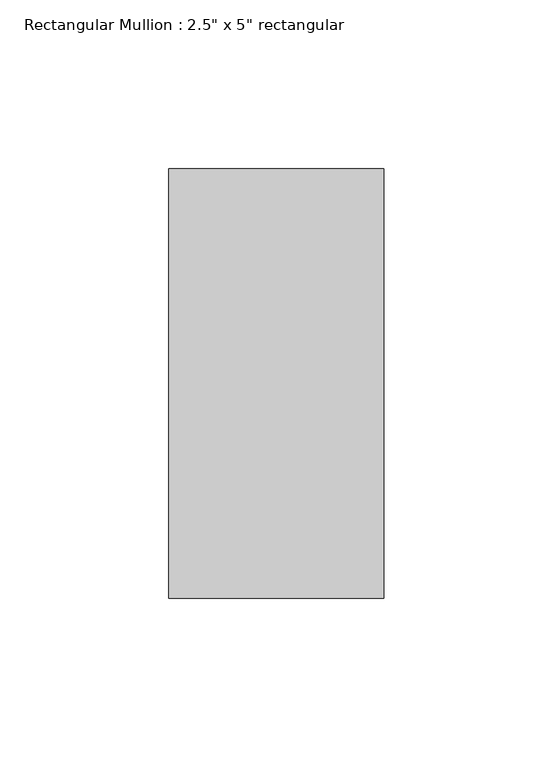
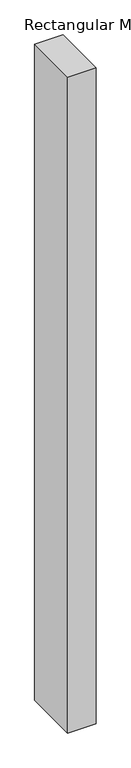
"""IFC4 building model written with IfcOpenShell, lengths in millimetres: member geometry."""

import ifcopenshell
import ifcopenshell.guid

model = None  # the IFC model being written
_history = None  # IfcOwnerHistory: only IFC2X3 demands one
_inside = {}  # id of a spatial element -> (the spatial element, [elements in it])
_under = {}  # id of a project, library or spatial element -> (it, [spatial elements below it])
_declared = {}  # id of a project -> (the project, [libraries it declares])
_typed = {}  # id of a type object -> (the type object, [elements of that type])
_made_of = {}  # id of a material, layer set ... -> (it, [elements and type objects made of it])


def new_model(schema):
    """Start an empty IFC model of exactly this schema.

    Asked for "IFC4X3", IfcOpenShell would pick the latest addendum, in which some entities
    have other attributes; the version numbers below select the first issue.
    IFC2X3 requires an IfcOwnerHistory on every rooted entity: one is made here for all.
    """
    global model, _history
    if schema == "IFC4X3":
        model = ifcopenshell.file(schema_version=(4, 3, 0, 0))
    else:
        model = ifcopenshell.file(schema=schema)
    _inside.clear()
    _under.clear()
    _declared.clear()
    _typed.clear()
    _made_of.clear()
    _history = None
    if model.schema == "IFC2X3":
        org = make("IfcOrganization", Name="unknown")
        user = make(
            "IfcPersonAndOrganization",
            ThePerson=make("IfcPerson", FamilyName="unknown"),
            TheOrganization=org,
        )
        app = make(
            "IfcApplication",
            ApplicationDeveloper=org,
            Version="unknown",
            ApplicationFullName="unknown",
            ApplicationIdentifier="unknown",
        )
        _history = make(
            "IfcOwnerHistory",
            OwningUser=user,
            OwningApplication=app,
            ChangeAction="ADDED",
            CreationDate=0,
        )
    return model


def make(cls, **values):
    """One entity of the class cls with the attributes given. An attribute that is None is left unset."""
    return model.create_entity(
        cls, **{name: value for name, value in values.items() if value is not None}
    )


def rooted(cls, **values):
    """An entity with a GlobalId (a new one), such as an element, a storey or a relation."""
    return make(cls, GlobalId=ifcopenshell.guid.new(), OwnerHistory=_history, **values)


def si_unit(unit_type, name, prefix=None):
    """IfcSIUnit, for example si_unit("LENGTHUNIT", "METRE", prefix="MILLI")."""
    return make("IfcSIUnit", UnitType=unit_type, Prefix=prefix, Name=name)


def assignment(units):
    """IfcUnitAssignment: the units of a project."""
    return None if units is None else make("IfcUnitAssignment", Units=units)


def point(xyz):
    """IfcCartesianPoint."""
    return None if xyz is None else make("IfcCartesianPoint", Coordinates=xyz)


def direction(xyz):
    """IfcDirection."""
    return None if xyz is None else make("IfcDirection", DirectionRatios=xyz)


def frame(location, z_axis=None, x_axis=None):
    """IfcAxis2Placement3D, a coordinate frame: its origin and axes. An axis left out is left unset."""
    return make(
        "IfcAxis2Placement3D",
        Location=point(location),
        Axis=direction(z_axis),
        RefDirection=direction(x_axis),
    )


def origin():
    """The frame at (0, 0, 0) with its axes left unset."""
    return frame((0.0, 0.0, 0.0))


def place(relative_to, where):
    """IfcLocalPlacement: puts the frame where relative to a parent placement (None: the world)."""
    return make(
        "IfcLocalPlacement", PlacementRelTo=relative_to, RelativePlacement=where
    )


def context(
    kind, dimensions, precision=None, world=None, true_north=None, identifier=None
):
    """IfcGeometricRepresentationContext, for example the 3D "Model" context."""
    return make(
        "IfcGeometricRepresentationContext",
        ContextIdentifier=identifier,
        ContextType=kind,
        CoordinateSpaceDimension=dimensions,
        Precision=precision,
        WorldCoordinateSystem=world,
        TrueNorth=true_north,
    )


def project(units=None, contexts=None):
    """IfcProject with its units and contexts."""
    return rooted(
        "IfcProject",
        Name="project",
        RepresentationContexts=contexts,
        UnitsInContext=assignment(units),
    )


def spatial(cls, under=None, at=None, **own):
    """A site, building, storey or space (cls), placed at a placement, below another one or the project."""
    s = rooted(cls, ObjectPlacement=at, **own)
    if under is not None:
        _under.setdefault(under.id(), (under, []))[1].append(s)
    return s


def polyline(points):
    """IfcPolyline through the points."""
    return make("IfcPolyline", Points=[point(p) for p in points])


def outline(outer, holes=None, kind="AREA"):
    """IfcArbitraryClosedProfileDef: a profile drawn as a closed curve; with holes, ...WithVoids."""
    if holes is None:
        return make("IfcArbitraryClosedProfileDef", ProfileType=kind, OuterCurve=outer)
    return make(
        "IfcArbitraryProfileDefWithVoids",
        ProfileType=kind,
        OuterCurve=outer,
        InnerCurves=holes,
    )


def extrude(swept, where, along, depth):
    """IfcExtrudedAreaSolid: the profile swept, set in the frame where, extruded along a direction by depth."""
    return make(
        "IfcExtrudedAreaSolid",
        SweptArea=swept,
        Position=where,
        ExtrudedDirection=direction(along),
        Depth=depth,
    )


def shape(context_of_items, identifier, shape_type, items):
    """IfcShapeRepresentation: the items that make up one representation, for example the "Body"."""
    return make(
        "IfcShapeRepresentation",
        ContextOfItems=context_of_items,
        RepresentationIdentifier=identifier,
        RepresentationType=shape_type,
        Items=items,
    )


def source(mapping_origin, context_of_items, identifier, shape_type, items):
    """IfcRepresentationMap: a shape defined once, which mapped items show again and again."""
    return make(
        "IfcRepresentationMap",
        MappingOrigin=mapping_origin,
        MappedRepresentation=shape(context_of_items, identifier, shape_type, items),
    )


def transform(
    local_origin,
    x_axis=None,
    y_axis=None,
    z_axis=None,
    scale=None,
    scale2=None,
    scale3=None,
    uniform=True,
):
    """IfcCartesianTransformationOperator3D, or its non-uniform kind. x_axis, y_axis, z_axis: its Axis1, 2, 3."""
    if uniform:
        return make(
            "IfcCartesianTransformationOperator3D",
            Axis1=direction(x_axis),
            Axis2=direction(y_axis),
            LocalOrigin=point(local_origin),
            Scale=scale,
            Axis3=direction(z_axis),
        )
    return make(
        "IfcCartesianTransformationOperator3DnonUniform",
        Axis1=direction(x_axis),
        Axis2=direction(y_axis),
        LocalOrigin=point(local_origin),
        Scale=scale,
        Axis3=direction(z_axis),
        Scale2=scale2,
        Scale3=scale3,
    )


def mapped(mapping_source, mapping_target):
    """IfcMappedItem: shows the shape of a source again, moved by a transform."""
    return make(
        "IfcMappedItem", MappingSource=mapping_source, MappingTarget=mapping_target
    )


def made_of(thing, what):
    """Note that an element or type object is made of a material, layer set ...; save() writes the relation."""
    if what is not None:
        _made_of.setdefault(what.id(), (what, []))[1].append(thing)
    return thing


def element(
    cls,
    number,
    at=None,
    inside=None,
    cuts=None,
    type_object=None,
    material=None,
    context=None,
    identifier="Body",
    shape_type=None,
    held_by="IfcProductDefinitionShape",
    body=None,
    shapes=None,
    **own,
):
    """One element of the class cls, such as IfcWall. Its Tag is "e" and its number.

    at: its placement. inside: the storey or other place that contains it. cuts: it is an
    opening in that element (IfcRelVoidsElement). A single representation is given by context,
    identifier, shape_type and body (its items); several are given by shapes. held_by: the class
    of the entity that holds the representations. save() writes the other relations.
    """
    e = rooted(cls, Tag="e%d" % number, ObjectPlacement=at, **own)
    if body is not None:
        shapes = [shape(context, identifier, shape_type, body)]
    if shapes is not None:
        e.Representation = make(held_by, Representations=shapes)
    if inside is not None:
        _inside.setdefault(inside.id(), (inside, []))[1].append(e)
    if cuts is not None:
        rooted(
            "IfcRelVoidsElement", RelatingBuildingElement=cuts, RelatedOpeningElement=e
        )
    if type_object is not None:
        _typed.setdefault(type_object.id(), (type_object, []))[1].append(e)
    return made_of(e, material)


def aggregate(whole, parts):
    """IfcRelAggregates: a whole, such as a stair, and the parts it consists of."""
    return rooted("IfcRelAggregates", RelatingObject=whole, RelatedObjects=parts)


def save(model, path):
    """Write the relations noted so far, then the file.

    IfcRelAggregates (storeys below a building ...), IfcRelContainedInSpatialStructure (elements
    in a storey), IfcRelDefinesByType, IfcRelAssociatesMaterial and IfcRelDeclares: one each for
    every whole, place, type object, material and project.
    """
    for whole, parts in _under.values():
        aggregate(whole, parts)
    for where, things in _inside.values():
        rooted(
            "IfcRelContainedInSpatialStructure",
            RelatedElements=things,
            RelatingStructure=where,
        )
    for kind, things in _typed.values():
        rooted("IfcRelDefinesByType", RelatedObjects=things, RelatingType=kind)
    for what, things in _made_of.values():
        rooted("IfcRelAssociatesMaterial", RelatedObjects=things, RelatingMaterial=what)
    for by, libraries in _declared.values():
        rooted("IfcRelDeclares", RelatingContext=by, RelatedDefinitions=libraries)
    model.write(path)


def member_4cc729dc(model_context):
    return source(origin(), model_context, "Body", "SweptSolid", [
        extrude(outline(polyline([(31.75, 63.5), (31.75, -63.5), (-31.75, -63.5), (-31.75, 63.5), (31.75, 63.5)])), frame((0.0, 0.0, -1542.0947385), z_axis=(0.0, 0.0, 1.0), x_axis=(1.0, 0.0, 0.0)), (0.0, 0.0, 1.0), 1542.0947385),
    ])


if __name__ == "__main__":
    model = new_model("IFC4")
    model_context = context("Model", 3, world=origin())
    ifc_project = project(units=[si_unit("LENGTHUNIT", "METRE", prefix="MILLI")], contexts=[model_context])
    site = spatial("IfcSite", under=ifc_project)
    building = spatial("IfcBuilding", under=site)
    placement = place(None, origin())
    member_shape = member_4cc729dc(model_context)
    element("IfcMember", 1, ObjectType="Rectangular Mullion : 2.5\" x 5\" rectangular", at=placement, inside=building, context=model_context, shape_type="MappedRepresentation", body=[
        mapped(member_shape, transform((0.0, 0.0, 0.0), x_axis=(1.0, 0.0, 0.0), y_axis=(0.0, 1.0, 0.0), z_axis=(0.0, 0.0, 1.0))),
    ])
    save(model, "model.ifc")
